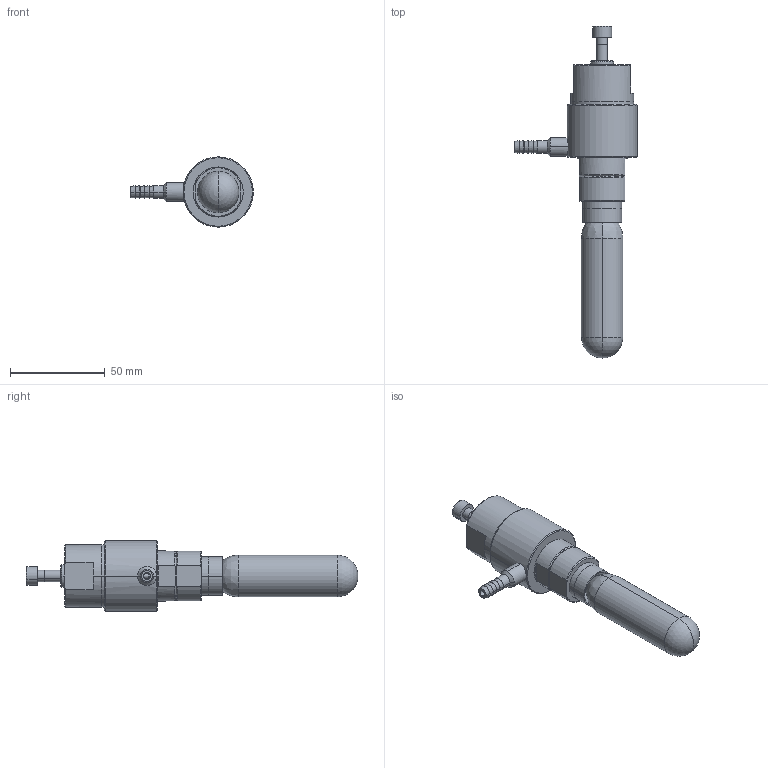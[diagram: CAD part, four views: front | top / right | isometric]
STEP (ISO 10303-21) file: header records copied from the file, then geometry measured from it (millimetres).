
FILE_DESCRIPTION((''),'2;1');
FILE_NAME('MAHOU_CO2_ASM','2024-10-28T18:12:30',('PC'),(''),'CREO PARAMETRIC BY PTC INC, 2024133','CREO PARAMETRIC BY PTC INC, 2024133','');
FILE_SCHEMA(('AUTOMOTIVE_DESIGN { 1 0 10303 214 1 1 1 1 }'));
Length unit declared in the file: millimetre
Products named in the file (18): PIN; CAVITY_PIN; VALVULA_PIN; MUELLE_VALVULA; CAVIDAD_BARRIL; JUNTA_PLANA_VALVULA; DIAFRAGMA; SPRING_CAVITY; DIAFRAGMA_EJE; DIAFRAGMA_2; MUELLE_REGULADOR_COMP_AF0; CARTRIDGE_64; 12X2_2_O-RING; SPRING_TARE_2; BOTTLE_CAP; CARTRIDGE_RING; ISO4762-M6X28-8_8; MAHOU_CO2_ASM
Assembly tree (18 placements, depth 2):
  MAHOU_CO2_ASM
    PIN
    CAVITY_PIN
    VALVULA_PIN
    MUELLE_VALVULA
    CAVIDAD_BARRIL
    JUNTA_PLANA_VALVULA
    DIAFRAGMA
    SPRING_CAVITY
    DIAFRAGMA_EJE
    DIAFRAGMA_2
    MUELLE_REGULADOR_COMP_AF0
    CARTRIDGE_64
    12X2_2_O-RING  x2
    SPRING_TARE_2
    BOTTLE_CAP
    CARTRIDGE_RING
    ISO4762-M6X28-8_8
Bounding box: 64.9 x 175.63 x 37.2 mm (x, y, z)
Volume: 59237.8 mm3; surface area: 53701.9 mm2
Topology: 18 solids, 28 shells, 420 faces, 945 edges, 585 vertices
Faces by surface type: cylinder 158, plane 106, cone 92, torus 42, bspline 16, sphere 6
Entity records: 22462 total; most frequent: CARTESIAN_POINT 7155, DIRECTION 2199, ORIENTED_EDGE 1830, PRESENTATION_STYLE_ASSIGNMENT 1102, STYLED_ITEM 1102, AXIS2_PLACEMENT_3D 946, EDGE_CURVE 933, CURVE_STYLE 769
